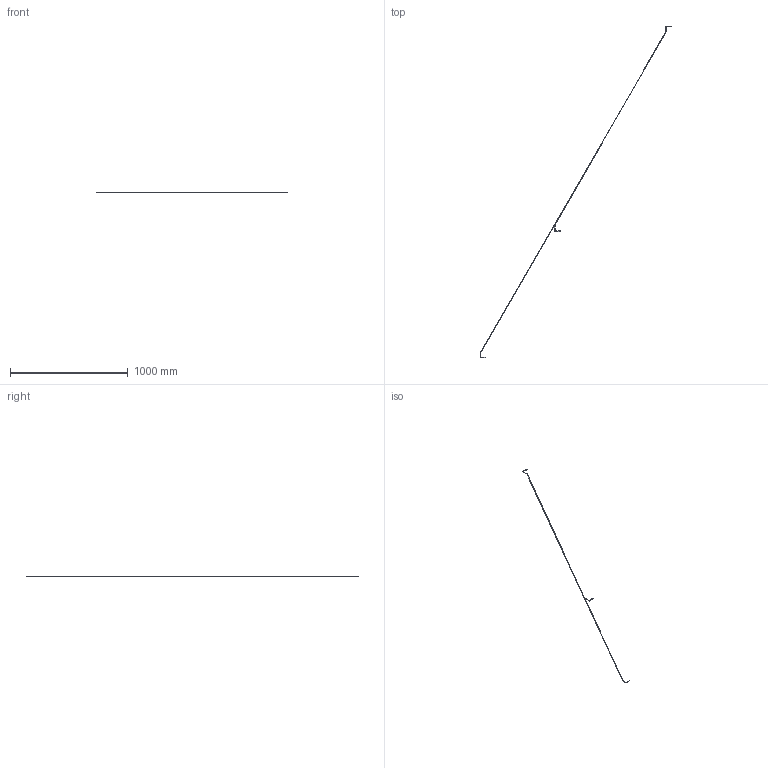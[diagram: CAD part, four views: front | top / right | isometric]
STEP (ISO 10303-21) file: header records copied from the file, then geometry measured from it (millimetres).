
FILE_DESCRIPTION(('FreeCAD Model'),'2;1');
FILE_NAME('D:/Users/Dfo15/OneDrive/Documents/cone edge.step', '2018-10-20T10:12:24',('Author'),(''), 'Open CASCADE STEP processor 7.2','FreeCAD','Unknown');
FILE_SCHEMA(('AUTOMOTIVE_DESIGN { 1 0 10303 214 1 1 1 1 }'));
Length unit declared in the file: millimetre
Products named in the file (1): DWire012
Bounding box: 1625 x 2820 x 0 mm (x, y, z)
Surface area: 17302.4 mm2 (no closed solid volume)
Topology: 0 solids, 1 shells, 1 faces, 27 edges, 27 vertices
Faces by surface type: plane 1
Entity records: 440 total; most frequent: CARTESIAN_POINT 83, DIRECTION 58, LINE 54, VECTOR 54, ORIENTED_EDGE 27, EDGE_CURVE 27, VERTEX_POINT 27, SURFACE_CURVE 27
